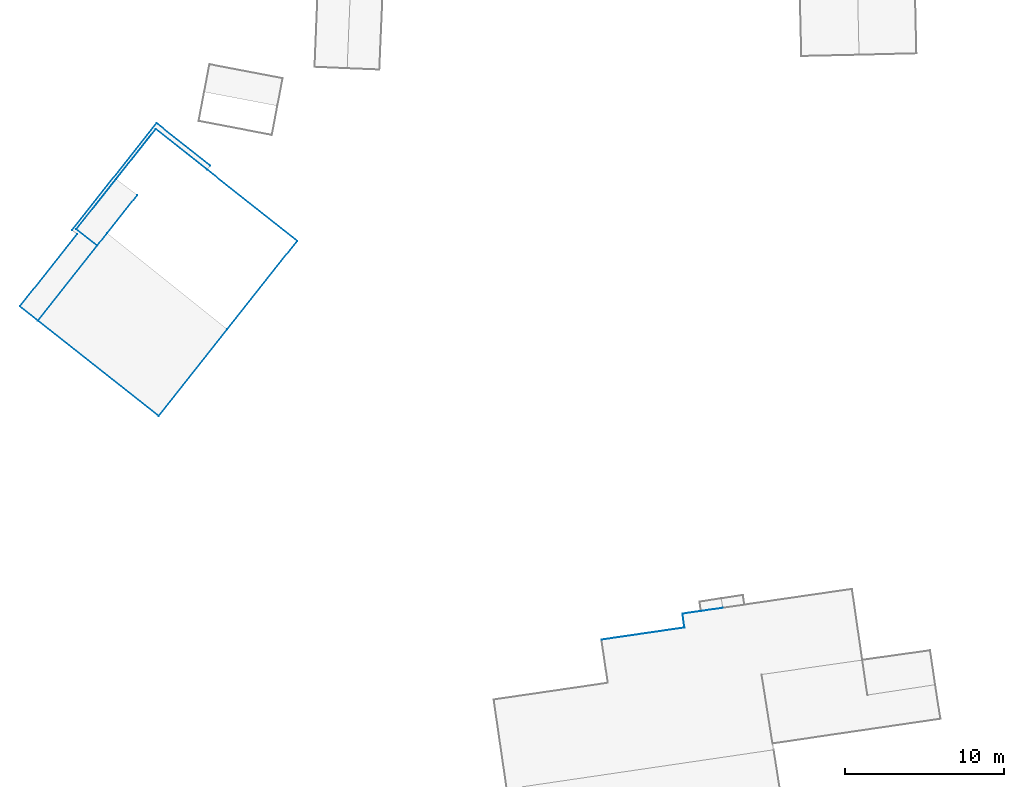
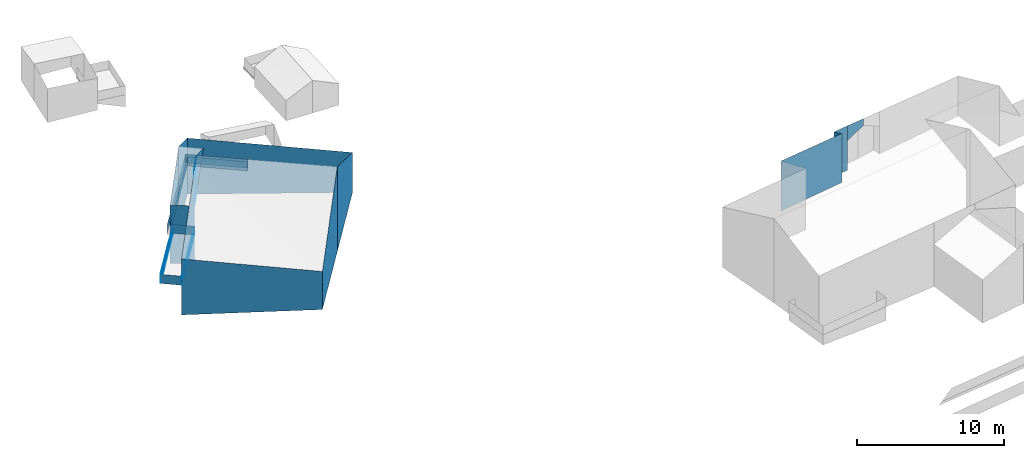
# Not in any storey, part 3 of 59: 30 walls.
"""IFC4 building model written with IfcOpenShell, lengths in metres."""

from ifc_helpers import new_model, entity, si_unit, converted_unit, origin, place, context, subcontext, project, spatial, face_set, surface_model, element, save


model = new_model("IFC4")

# Units and contexts
model_context = context("Model", 3, precision=1e-05, world=origin())
body_context = subcontext(model_context, "Body", "Model", "MODEL_VIEW")
ifc_project = project(units=[converted_unit("PLANEANGLEUNIT", "DEGREE", entity("IfcRatioMeasure", 0.0174532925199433), si_unit("PLANEANGLEUNIT", "RADIAN"), dimensions=[0, 0, 0, 0, 0, 0, 0]), si_unit("AREAUNIT", "SQUARE_METRE"), si_unit("LENGTHUNIT", "METRE")], contexts=[model_context])

# Site, building
site_placement = place(None, origin())
site = spatial("IfcSite", under=ifc_project, at=site_placement, Name="_site")
building_1_placement = place(site_placement, origin())
building_1 = spatial("IfcBuilding", under=site, at=building_1_placement, Name="_building")

# Walls
wall_1_placement = place(building_1_placement, origin())
element("IfcWall", 1, at=wall_1_placement, inside=building_1, Name="Wall", PredefinedType="NOTDEFINED", context=body_context, shape_type="SurfaceModel", body=[
    surface_model("IfcFaceBasedSurfaceModel", [(51.649, 67.651, 219.06), (53.55, 70.051, 217.49), (53.55, 70.051, 217.44), (51.649, 67.651, 216.039)], [face_set([[[0, 1, 2, 3]]])]),
])
wall_2_placement = place(building_1_placement, origin())
element("IfcWall", 2, at=wall_2_placement, inside=building_1, Name="Wall", PredefinedType="NOTDEFINED", context=body_context, shape_type="SurfaceModel", body=[
    surface_model("IfcFaceBasedSurfaceModel", [(51.02, 66.859, 218.52), (51.649, 67.651, 219.06), (51.649, 67.651, 216.039), (51.02, 66.859, 215.56)], [face_set([[[0, 1, 2, 3]]])]),
])
wall_3_placement = place(building_1_placement, origin())
element("IfcWall", 3, at=wall_3_placement, inside=building_1, Name="Wall", PredefinedType="NOTDEFINED", context=body_context, shape_type="SurfaceModel", body=[
    surface_model("IfcFaceBasedSurfaceModel", [(59.2, 61.619, 219.13), (54.88, 56.16, 215.26), (54.88, 56.16, 212.109), (59.2, 61.619, 212.081)], [face_set([[[0, 1, 2, 3]]])]),
])
wall_4_placement = place(building_1_placement, origin())
element("IfcWall", 4, at=wall_4_placement, inside=building_1, Name="Wall", PredefinedType="NOTDEFINED", context=body_context, shape_type="SurfaceModel", body=[
    surface_model("IfcFaceBasedSurfaceModel", [(63.59, 67.16, 215.4), (59.2, 61.619, 219.13), (59.2, 61.619, 212.081), (63.59, 67.16, 212.088)], [face_set([[[0, 1, 2, 3]]])]),
])
wall_5_placement = place(building_1_placement, origin())
element("IfcWall", 5, at=wall_5_placement, inside=building_1, Name="Wall", PredefinedType="NOTDEFINED", context=body_context, shape_type="SurfaceModel", body=[
    surface_model("IfcFaceBasedSurfaceModel", [(47.3, 62.16, 215.32), (51.02, 66.859, 218.52), (51.02, 66.859, 210.806), (47.3, 62.16, 210.677)], [face_set([[[0, 1, 2, 3]]])]),
])
wall_6_placement = place(building_1_placement, origin())
element("IfcWall", 6, at=wall_6_placement, inside=building_1, Name="Wall", PredefinedType="NOTDEFINED", context=body_context, shape_type="SurfaceModel", body=[
    surface_model("IfcFaceBasedSurfaceModel", [(52.21, 71.051, 217.54), (54.7, 74.199, 215.44), (54.7, 74.199, 210.791), (52.21, 71.051, 210.731)], [face_set([[[0, 1, 2, 3]]])]),
])
wall_7_placement = place(building_1_placement, origin())
element("IfcWall", 7, at=wall_7_placement, inside=building_1, Name="Wall", PredefinedType="NOTDEFINED", context=body_context, shape_type="SurfaceModel", body=[
    surface_model("IfcFaceBasedSurfaceModel", [(49.71, 67.891, 215.44), (52.21, 71.051, 217.54), (52.21, 71.051, 210.731), (49.71, 67.891, 210.636)], [face_set([[[0, 1, 2, 3]]])]),
])
wall_8_placement = place(building_1_placement, origin())
element("IfcWall", 8, at=wall_8_placement, inside=building_1, Name="Wall", PredefinedType="NOTDEFINED", context=body_context, shape_type="SurfaceModel", body=[
    surface_model("IfcFaceBasedSurfaceModel", [(54.75, 74.561, 213.14), (58.13, 71.891, 213.14), (58.13, 71.891, 213.89), (54.75, 74.561, 213.89)], [face_set([[[0, 1, 2, 3]]])]),
])
wall_9_placement = place(building_1_placement, origin())
element("IfcWall", 9, at=wall_9_placement, inside=building_1, Name="Wall", PredefinedType="NOTDEFINED", context=body_context, shape_type="SurfaceModel", body=[
    surface_model("IfcFaceBasedSurfaceModel", [(49.44, 67.84, 213.14), (54.75, 74.561, 213.14), (54.75, 74.561, 213.89), (49.44, 67.84, 213.89)], [face_set([[[0, 1, 2, 3]]])]),
])
wall_10_placement = place(building_1_placement, origin())
element("IfcWall", 10, at=wall_10_placement, inside=building_1, Name="Wall", PredefinedType="NOTDEFINED", context=body_context, shape_type="SurfaceModel", body=[
    surface_model("IfcFaceBasedSurfaceModel", [(46.17, 63.051, 213.14), (49.76, 67.59, 213.14), (49.76, 67.59, 213.89), (46.17, 63.051, 213.89)], [face_set([[[0, 1, 2, 3]]])]),
])
wall_11_placement = place(building_1_placement, origin())
element("IfcWall", 11, at=wall_11_placement, inside=building_1, Name="Wall", PredefinedType="NOTDEFINED", context=body_context, shape_type="SurfaceModel", body=[
    surface_model("IfcFaceBasedSurfaceModel", [(47.3, 62.16, 213.14), (46.17, 63.051, 213.14), (46.17, 63.051, 213.89), (47.3, 62.16, 213.89)], [face_set([[[0, 1, 2, 3]]])]),
])
wall_12_placement = place(building_1_placement, origin())
element("IfcWall", 12, at=wall_12_placement, inside=building_1, Name="Wall", PredefinedType="NOTDEFINED", context=body_context, shape_type="SurfaceModel", body=[
    surface_model("IfcFaceBasedSurfaceModel", [(51.02, 66.859, 213.14), (47.3, 62.16, 213.14), (47.3, 62.16, 213.89), (51.02, 66.859, 213.89)], [face_set([[[0, 1, 2, 3]]])]),
])
wall_13_placement = place(building_1_placement, origin())
element("IfcWall", 13, at=wall_13_placement, inside=building_1, Name="Wall", PredefinedType="NOTDEFINED", context=body_context, shape_type="SurfaceModel", body=[
    surface_model("IfcFaceBasedSurfaceModel", [(49.71, 67.891, 213.14), (51.02, 66.859, 213.14), (51.02, 66.859, 213.89), (49.71, 67.891, 213.89)], [face_set([[[0, 1, 2, 3]]])]),
])
wall_14_placement = place(building_1_placement, origin())
element("IfcWall", 14, at=wall_14_placement, inside=building_1, Name="Wall", PredefinedType="NOTDEFINED", context=body_context, shape_type="SurfaceModel", body=[
    surface_model("IfcFaceBasedSurfaceModel", [(54.7, 74.199, 213.14), (49.71, 67.891, 213.14), (49.71, 67.891, 213.89), (54.7, 74.199, 213.89)], [face_set([[[0, 1, 2, 3]]])]),
])
wall_15_placement = place(building_1_placement, origin())
element("IfcWall", 15, at=wall_15_placement, inside=building_1, Name="Wall", PredefinedType="NOTDEFINED", context=body_context, shape_type="SurfaceModel", body=[
    surface_model("IfcFaceBasedSurfaceModel", [(57.93, 71.641, 213.14), (54.7, 74.199, 213.14), (54.7, 74.199, 213.89), (57.93, 71.641, 213.89)], [face_set([[[0, 1, 2, 3]]])]),
])
wall_16_placement = place(building_1_placement, origin())
element("IfcWall", 16, at=wall_16_placement, inside=building_1, Name="Wall", PredefinedType="NOTDEFINED", context=body_context, shape_type="SurfaceModel", body=[
    surface_model("IfcFaceBasedSurfaceModel", [(54.75, 74.561, 213.14), (58.13, 71.891, 213.14), (58.13, 71.891, 213.89), (54.75, 74.561, 213.89)], [face_set([[[0, 1, 2, 3]]])]),
])
wall_17_placement = place(building_1_placement, origin())
element("IfcWall", 17, at=wall_17_placement, inside=building_1, Name="Wall", PredefinedType="NOTDEFINED", context=body_context, shape_type="SurfaceModel", body=[
    surface_model("IfcFaceBasedSurfaceModel", [(49.44, 67.84, 213.14), (54.75, 74.561, 213.14), (54.75, 74.561, 213.89), (49.44, 67.84, 213.89)], [face_set([[[0, 1, 2, 3]]])]),
])
wall_18_placement = place(building_1_placement, origin())
element("IfcWall", 18, at=wall_18_placement, inside=building_1, Name="Wall", PredefinedType="NOTDEFINED", context=body_context, shape_type="SurfaceModel", body=[
    surface_model("IfcFaceBasedSurfaceModel", [(46.17, 63.051, 213.14), (49.76, 67.59, 213.14), (49.76, 67.59, 213.89), (46.17, 63.051, 213.89)], [face_set([[[0, 1, 2, 3]]])]),
])
wall_19_placement = place(building_1_placement, origin())
element("IfcWall", 19, at=wall_19_placement, inside=building_1, Name="Wall", PredefinedType="NOTDEFINED", context=body_context, shape_type="SurfaceModel", body=[
    surface_model("IfcFaceBasedSurfaceModel", [(47.3, 62.16, 213.14), (46.17, 63.051, 213.14), (46.17, 63.051, 213.89), (47.3, 62.16, 213.89)], [face_set([[[0, 1, 2, 3]]])]),
])
wall_20_placement = place(building_1_placement, origin())
element("IfcWall", 20, at=wall_20_placement, inside=building_1, Name="Wall", PredefinedType="NOTDEFINED", context=body_context, shape_type="SurfaceModel", body=[
    surface_model("IfcFaceBasedSurfaceModel", [(51.02, 66.859, 213.14), (47.3, 62.16, 213.14), (47.3, 62.16, 213.89), (51.02, 66.859, 213.89)], [face_set([[[0, 1, 2, 3]]])]),
])
wall_21_placement = place(building_1_placement, origin())
element("IfcWall", 21, at=wall_21_placement, inside=building_1, Name="Wall", PredefinedType="NOTDEFINED", context=body_context, shape_type="SurfaceModel", body=[
    surface_model("IfcFaceBasedSurfaceModel", [(49.71, 67.891, 213.14), (51.02, 66.859, 213.14), (51.02, 66.859, 213.89), (49.71, 67.891, 213.89)], [face_set([[[0, 1, 2, 3]]])]),
])
wall_22_placement = place(building_1_placement, origin())
element("IfcWall", 22, at=wall_22_placement, inside=building_1, Name="Wall", PredefinedType="NOTDEFINED", context=body_context, shape_type="SurfaceModel", body=[
    surface_model("IfcFaceBasedSurfaceModel", [(54.7, 74.199, 213.14), (49.71, 67.891, 213.14), (49.71, 67.891, 213.89), (54.7, 74.199, 213.89)], [face_set([[[0, 1, 2, 3]]])]),
])
wall_23_placement = place(building_1_placement, origin())
element("IfcWall", 23, at=wall_23_placement, inside=building_1, Name="Wall", PredefinedType="NOTDEFINED", context=body_context, shape_type="SurfaceModel", body=[
    surface_model("IfcFaceBasedSurfaceModel", [(57.93, 71.641, 213.14), (54.7, 74.199, 213.14), (54.7, 74.199, 213.89), (57.93, 71.641, 213.89)], [face_set([[[0, 1, 2, 3]]])]),
])
wall_24_placement = place(building_1_placement, origin())
element("IfcWall", 24, at=wall_24_placement, inside=building_1, Name="Wall", PredefinedType="NOTDEFINED", context=body_context, shape_type="SurfaceModel", body=[
    surface_model("IfcFaceBasedSurfaceModel", [(54.7, 74.199, 215.44), (63.59, 67.16, 215.4), (63.59, 67.16, 212.088), (54.7, 74.199, 210.791)], [face_set([[[0, 1, 2, 3]]])]),
])
wall_25_placement = place(building_1_placement, origin())
element("IfcWall", 25, at=wall_25_placement, inside=building_1, Name="Wall", PredefinedType="NOTDEFINED", context=body_context, shape_type="SurfaceModel", body=[
    surface_model("IfcFaceBasedSurfaceModel", [(51.02, 66.859, 215.56), (49.71, 67.891, 215.44), (49.71, 67.891, 210.636), (51.02, 66.859, 210.806)], [face_set([[[0, 1, 2, 3]]])]),
])
wall_26_placement = place(building_1_placement, origin())
element("IfcWall", 26, at=wall_26_placement, inside=building_1, Name="Wall", PredefinedType="NOTDEFINED", context=body_context, shape_type="SurfaceModel", body=[
    surface_model("IfcFaceBasedSurfaceModel", [(54.88, 56.16, 215.26), (47.3, 62.16, 215.32), (47.3, 62.16, 210.677), (54.88, 56.16, 212.109)], [face_set([[[0, 1, 2, 3]]])]),
])

# Building
building_2_placement = place(site_placement, origin())
building_2 = spatial("IfcBuilding", under=site, at=building_2_placement, Name="_building")

# Walls
wall_27_placement = place(building_2_placement, origin())
element("IfcWall", 27, at=wall_27_placement, inside=building_2, Name="Wall", PredefinedType="NOTDEFINED", context=body_context, shape_type="SurfaceModel", body=[
    surface_model("IfcFaceBasedSurfaceModel", [(88.97, 43.91, 222.83), (90.34, 44.102, 222.825), (90.34, 44.102, 222.28), (88.97, 43.91, 221.59)], [face_set([[[0, 1, 2, 3]]])]),
])
wall_28_placement = place(building_2_placement, origin())
element("IfcWall", 28, at=wall_28_placement, inside=building_2, Name="Wall", PredefinedType="NOTDEFINED", context=body_context, shape_type="SurfaceModel", body=[
    surface_model("IfcFaceBasedSurfaceModel", [(87.93, 42.869, 223.19), (87.81, 43.74, 222.83), (87.81, 43.74, 219.123), (87.93, 42.869, 219.118)], [face_set([[[0, 1, 2, 3]]])]),
])
wall_29_placement = place(building_2_placement, origin())
element("IfcWall", 29, at=wall_29_placement, inside=building_2, Name="Wall", PredefinedType="NOTDEFINED", context=body_context, shape_type="SurfaceModel", body=[
    surface_model("IfcFaceBasedSurfaceModel", [(82.72, 42.109, 223.19), (87.93, 42.869, 223.19), (87.93, 42.869, 219.118), (82.72, 42.109, 219.032)], [face_set([[[0, 1, 2, 3]]])]),
])
wall_30_placement = place(building_2_placement, origin())
element("IfcWall", 30, at=wall_30_placement, inside=building_2, Name="Wall", PredefinedType="NOTDEFINED", context=body_context, shape_type="SurfaceModel", body=[
    surface_model("IfcFaceBasedSurfaceModel", [(87.81, 43.74, 222.83), (88.97, 43.91, 222.83), (88.97, 43.91, 219.142), (87.81, 43.74, 219.123)], [face_set([[[0, 1, 2, 3]]])]),
])

save(model, "model.ifc")
